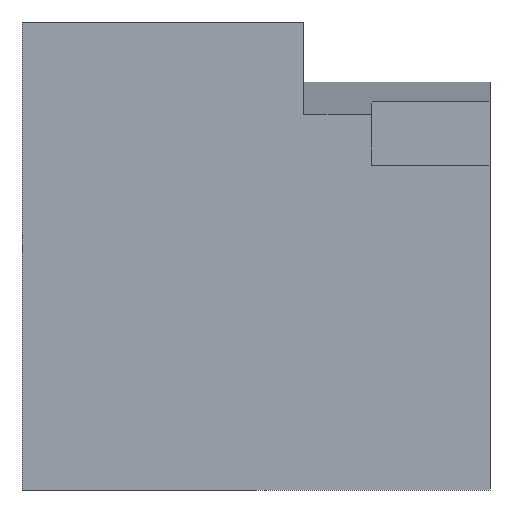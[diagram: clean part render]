
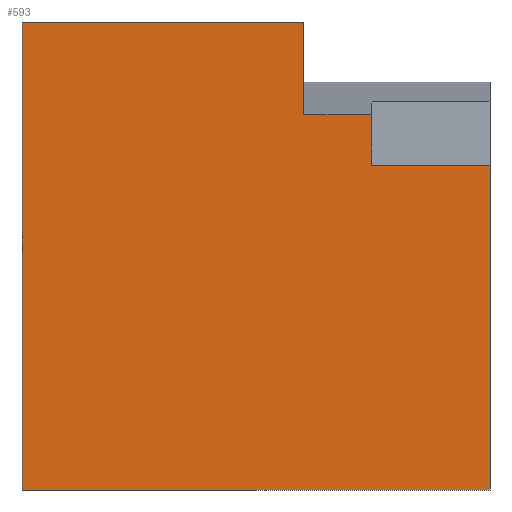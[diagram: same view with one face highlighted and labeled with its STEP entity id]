
A CAD part, left-side view. The second image highlights one B-rep face of the part: STEP entity #593.
In plain terms, the highlighted planar face has unit normal (-1, 0, 0).
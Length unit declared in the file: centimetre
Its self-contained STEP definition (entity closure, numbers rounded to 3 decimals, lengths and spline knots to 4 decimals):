
#16 = EDGE_LOOP ( 'NONE', ( #413, #441, #203, #916, #772, #684, #200, #80 ) ) ;
#17 = DIRECTION ( 'NONE',  ( 0., 0., -1. ) ) ;
#31 = VERTEX_POINT ( 'NONE', #475 ) ;
#35 = CARTESIAN_POINT ( 'NONE',  ( 0., 398.1741, 802.401 ) ) ;
#71 = EDGE_CURVE ( 'NONE', #689, #121, #742, .T. ) ;
#80 = ORIENTED_EDGE ( 'NONE', *, *, #226, .F. ) ;
#101 = VECTOR ( 'NONE', #948, 100. ) ;
#107 = VECTOR ( 'NONE', #170, 100. ) ;
#121 = VERTEX_POINT ( 'NONE', #521 ) ;
#129 = DIRECTION ( 'NONE',  ( 0., 0., 1. ) ) ;
#133 = DIRECTION ( 'NONE',  ( 0., -1., 0. ) ) ;
#139 = EDGE_CURVE ( 'NONE', #832, #157, #367, .T. ) ;
#157 = VERTEX_POINT ( 'NONE', #557 ) ;
#170 = DIRECTION ( 'NONE',  ( 0., -1., 0. ) ) ;
#176 = EDGE_CURVE ( 'NONE', #31, #572, #783, .T. ) ;
#196 = AXIS2_PLACEMENT_3D ( 'NONE', #525, #675, #888 ) ;
#200 = ORIENTED_EDGE ( 'NONE', *, *, #71, .T. ) ;
#203 = ORIENTED_EDGE ( 'NONE', *, *, #139, .F. ) ;
#226 = EDGE_CURVE ( 'NONE', #572, #121, #566, .T. ) ;
#228 = VECTOR ( 'NONE', #505, 100. ) ;
#237 = EDGE_CURVE ( 'NONE', #389, #689, #652, .T. ) ;
#269 = VERTEX_POINT ( 'NONE', #699 ) ;
#286 = FACE_OUTER_BOUND ( 'NONE', #16, .T. ) ;
#312 = EDGE_CURVE ( 'NONE', #389, #269, #873, .T. ) ;
#337 = CARTESIAN_POINT ( 'NONE',  ( 0., 0., 693.8863 ) ) ;
#352 = CARTESIAN_POINT ( 'NONE',  ( 0., 252.8869, 693.8863 ) ) ;
#367 = LINE ( 'NONE', #524, #705 ) ;
#371 = CARTESIAN_POINT ( 'NONE',  ( 0., 1000., 0. ) ) ;
#389 = VERTEX_POINT ( 'NONE', #569 ) ;
#397 = CARTESIAN_POINT ( 'NONE',  ( 0., 1000., 0. ) ) ;
#413 = ORIENTED_EDGE ( 'NONE', *, *, #176, .F. ) ;
#441 = ORIENTED_EDGE ( 'NONE', *, *, #501, .T. ) ;
#475 = CARTESIAN_POINT ( 'NONE',  ( 0., 252.8869, 693.8863 ) ) ;
#501 = EDGE_CURVE ( 'NONE', #31, #157, #724, .T. ) ;
#505 = DIRECTION ( 'NONE',  ( 0., -1., 0. ) ) ;
#516 = CARTESIAN_POINT ( 'NONE',  ( 0., 1000., 1000. ) ) ;
#521 = CARTESIAN_POINT ( 'NONE',  ( 0., 0., 0. ) ) ;
#524 = CARTESIAN_POINT ( 'NONE',  ( 0., 398.1741, 802.401 ) ) ;
#525 = CARTESIAN_POINT ( 'NONE',  ( 0., 1000., 1000. ) ) ;
#557 = CARTESIAN_POINT ( 'NONE',  ( 0., 252.8869, 802.401 ) ) ;
#566 = LINE ( 'NONE', #769, #784 ) ;
#569 = CARTESIAN_POINT ( 'NONE',  ( 0., 1000., 1000. ) ) ;
#572 = VERTEX_POINT ( 'NONE', #886 ) ;
#586 = VECTOR ( 'NONE', #842, 100. ) ;
#593 = ADVANCED_FACE ( 'NONE', ( #286 ), #814, .F. ) ;
#652 = LINE ( 'NONE', #931, #586 ) ;
#675 = DIRECTION ( 'NONE',  ( 1., 0., 0. ) ) ;
#684 = ORIENTED_EDGE ( 'NONE', *, *, #237, .T. ) ;
#689 = VERTEX_POINT ( 'NONE', #397 ) ;
#694 = LINE ( 'NONE', #766, #744 ) ;
#699 = CARTESIAN_POINT ( 'NONE',  ( 0., 398.1741, 1000. ) ) ;
#702 = EDGE_CURVE ( 'NONE', #269, #832, #694, .T. ) ;
#705 = VECTOR ( 'NONE', #133, 100. ) ;
#724 = LINE ( 'NONE', #352, #954 ) ;
#742 = LINE ( 'NONE', #371, #101 ) ;
#744 = VECTOR ( 'NONE', #891, 100. ) ;
#766 = CARTESIAN_POINT ( 'NONE',  ( 0., 398.1741, 802.401 ) ) ;
#769 = CARTESIAN_POINT ( 'NONE',  ( 0., 0., 1000. ) ) ;
#772 = ORIENTED_EDGE ( 'NONE', *, *, #312, .F. ) ;
#783 = LINE ( 'NONE', #337, #107 ) ;
#784 = VECTOR ( 'NONE', #17, 100. ) ;
#814 = PLANE ( 'NONE',  #196 ) ;
#832 = VERTEX_POINT ( 'NONE', #35 ) ;
#842 = DIRECTION ( 'NONE',  ( 0., 0., -1. ) ) ;
#873 = LINE ( 'NONE', #516, #228 ) ;
#886 = CARTESIAN_POINT ( 'NONE',  ( 0., 0., 693.8863 ) ) ;
#888 = DIRECTION ( 'NONE',  ( 0., 0., -1. ) ) ;
#891 = DIRECTION ( 'NONE',  ( 0., 0., -1. ) ) ;
#916 = ORIENTED_EDGE ( 'NONE', *, *, #702, .F. ) ;
#931 = CARTESIAN_POINT ( 'NONE',  ( 0., 1000., 1000. ) ) ;
#948 = DIRECTION ( 'NONE',  ( 0., -1., 0. ) ) ;
#954 = VECTOR ( 'NONE', #129, 100. ) ;
